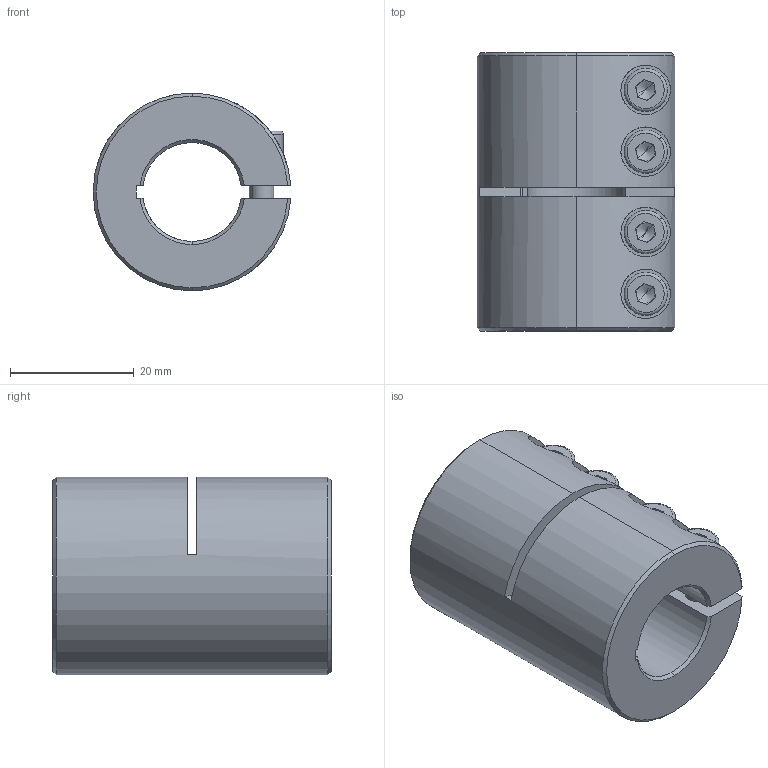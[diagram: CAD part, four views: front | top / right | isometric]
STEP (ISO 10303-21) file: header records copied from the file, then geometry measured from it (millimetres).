
FILE_DESCRIPTION (( 'STEP AP214' ), '1' );
FILE_NAME ('LL-B-D32L45-16-16½¨Ä£.STEP', '2022-07-21T07:13:26', ( '' ), ( '' ), 'SwSTEP 2.0', 'SolidWorks 2022', '' );
FILE_SCHEMA (( 'AUTOMOTIVE_DESIGN' ));
Length unit declared in the file: millimetre
Products named in the file (1): LL-B-D32L45-16-16膘耀
Bounding box: 31.97 x 45 x 32 mm (x, y, z)
Volume: 25174.3 mm3; surface area: 10703.2 mm2
Topology: 1 solids, 1 shells, 188 faces, 477 edges, 299 vertices
Faces by surface type: plane 86, cylinder 74, cone 20, torus 8
Entity records: 6186 total; most frequent: CARTESIAN_POINT 1553, DIRECTION 1006, ORIENTED_EDGE 938, EDGE_CURVE 469, AXIS2_PLACEMENT_3D 392, VERTEX_POINT 299, LINE 222, VECTOR 222
